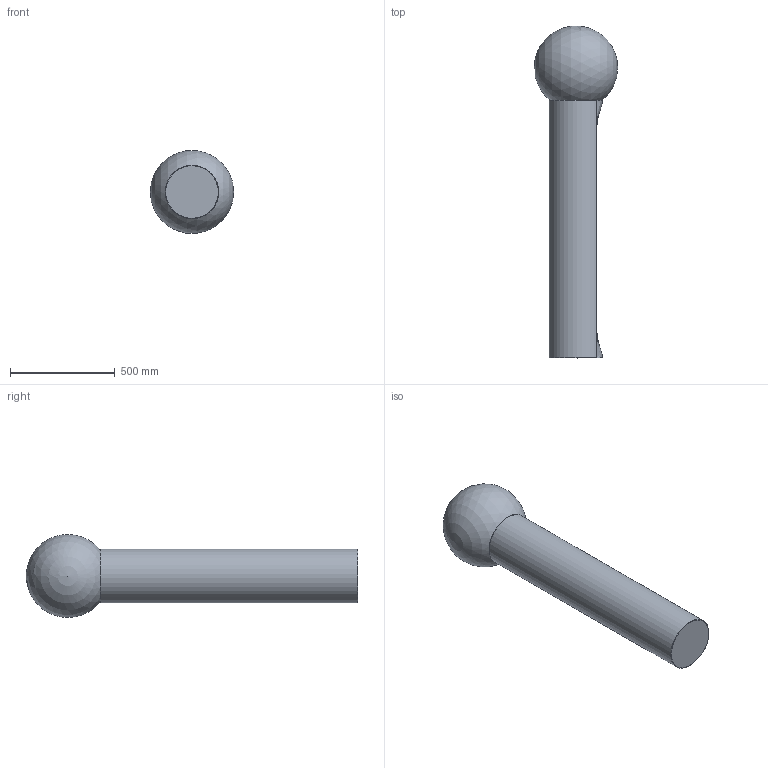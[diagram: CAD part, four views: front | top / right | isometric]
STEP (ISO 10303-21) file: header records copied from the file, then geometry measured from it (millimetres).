
FILE_DESCRIPTION(/* description */ (''),/* implementation_level */ '2;1');
FILE_NAME(/* name */ 'C:\Users\STEFANO\Desktop\3D SEM\1502-10 - JE SUIS TERRA F.E\Assieme7.stp',/* time_stamp */ '2019-09-17T11:05:04+02:00',/* author */ ('STEFANO'),/* organization */ (''),/* preprocessor_version */ 'ST-DEVELOPER v17',/* originating_system */ 'Autodesk Inventor 2019',/* authorisation */ '');
FILE_SCHEMA (('AUTOMOTIVE_DESIGN { 1 0 10303 214 3 1 1 }'));
Length unit declared in the file: millimetre
Products named in the file (3): Assieme7; base_terra_jesuisSEMP; PALLA TERRA
Assembly tree (2 placements, depth 2):
  Assieme7
    base_terra_jesuisSEMP
    PALLA TERRA
Bounding box: 398 x 1584 x 395.1 mm (x, y, z)
Volume: 82434147.1 mm3; surface area: 1661850.4 mm2
Topology: 2 solids, 7 shells, 38 faces, 74 edges, 45 vertices
Faces by surface type: plane 15, bspline 11, cylinder 7, torus 2, sphere 2, cone 1
Full cylindrical faces by diameter (mm): 3 x4, 145 x1
Entity records: 2276 total; most frequent: CARTESIAN_POINT 1459, DIRECTION 155, ORIENTED_EDGE 136, AXIS2_PLACEMENT_3D 69, EDGE_CURVE 68, VERTEX_POINT 45, EDGE_LOOP 39, FACE_OUTER_BOUND 38
